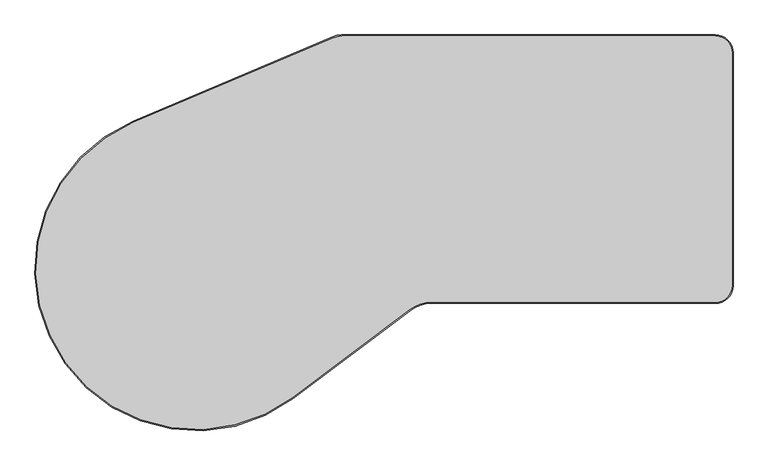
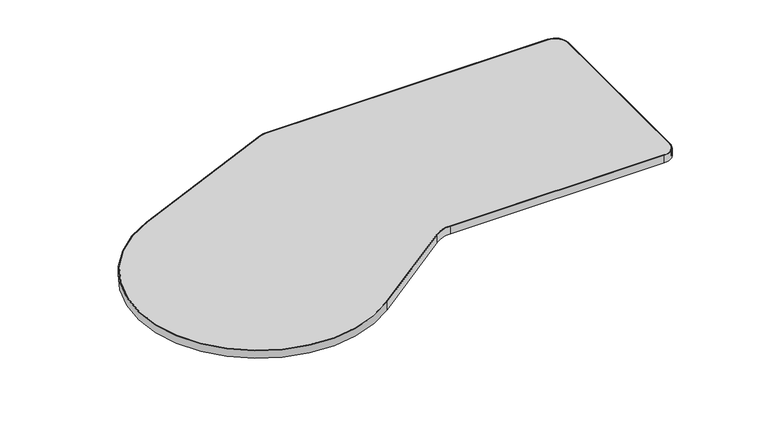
"""IFC4 building model written with IfcOpenShell, lengths in millimetres: furniture geometry, Steelcase - Answer Solution - Universal Table - Bubble Jetty - 3mm Edge : 30D x 78W - Left."""

from ifc_helpers import new_model, si_unit, point, frame, frame_2d, origin, place, context, project, spatial, polyline, circle_curve, trimmed, segment, composite_curve, outline, extrude, source, transform, mapped, element, save


def furniture_5bc7b9bf(model_context):
    return source(origin(), model_context, "Body", "SweptSolid", [
        extrude(outline(composite_curve([segment(polyline([(-1111.5127585, 0.0), (-50.8, 0.0)]), True, "CONTINUOUS"), segment(trimmed(circle_curve(frame_2d((-50.8, -50.8)), 50.8), [point((-50.8, 0.0))], [point((0.0, -50.8))], False, "CARTESIAN"), True, "CONTINUOUS"), segment(polyline([(0.0, -50.8), (0.0, -711.2)]), True, "CONTINUOUS"), segment(trimmed(circle_curve(frame_2d((-50.8, -711.2)), 50.8), [point((0.0, -711.2))], [point((-50.8, -762.0))], False, "CARTESIAN"), True, "CONTINUOUS"), segment(polyline([(-50.8, -762.0), (-855.727677, -762.0)]), True, "CONTINUOUS"), segment(trimmed(circle_curve(frame_2d((-855.727677, -863.6)), 101.6), [point((-855.727677, -762.0))], [point((-916.6860196, -782.318757))], True, "CARTESIAN"), True, "CONTINUOUS"), segment(polyline([(-916.6860196, -782.318757), (-1249.6888367, -1032.06026)]), True, "CONTINUOUS"), segment(trimmed(circle_curve(frame_2d((-1524.0017654, -666.2941502)), 457.2006452), [point((-1249.6888367, -1032.06026))], [point((-1702.645658, -245.4393183))], False, "CARTESIAN"), True, "CONTINUOUS"), segment(polyline([(-1702.645658, -245.4393183), (-1136.3243752, -5.0480225)]), True, "CONTINUOUS"), segment(trimmed(circle_curve(frame_2d((-1111.5127585, -63.5)), 63.5), [point((-1136.3243752, -5.0480225))], [point((-1111.5127585, 0.0))], False, "CARTESIAN"), True, "CONTINUOUS")], self_intersect=False), holes=[composite_curve([segment(polyline([(-855.7262558, -758.9513489), (-50.7998062, -758.9513489)]), True, "CONTINUOUS"), segment(trimmed(circle_curve(frame_2d((-50.7998062, -711.1996124)), 47.7517365), [point((-50.7998062, -758.9513489))], [point((-3.0480698, -711.1996124))], True, "CARTESIAN"), True, "CONTINUOUS"), segment(polyline([(-3.0480698, -711.1996124), (-3.0480698, -50.7992248)]), True, "CONTINUOUS"), segment(trimmed(circle_curve(frame_2d((-50.7998062, -50.7992248)), 47.7517365), [point((-3.0480698, -50.7992248))], [point((-50.7998062, -3.0474883))], True, "CARTESIAN"), True, "CONTINUOUS"), segment(polyline([(-50.7998062, -3.0474883), (-1108.9325722, -3.0474883)]), True, "CONTINUOUS"), segment(trimmed(circle_curve(frame_2d((-1108.9325722, -76.1911818)), 73.1436934), [point((-1108.9325722, -3.0474883))], [point((-1137.5125443, -8.8622498))], True, "CARTESIAN"), True, "CONTINUOUS"), segment(polyline([(-1137.5125443, -8.8622498), (-1701.4531219, -248.2453125)]), True, "CONTINUOUS"), segment(trimmed(circle_curve(frame_2d((-1523.9992122, -666.292685)), 454.1514018), [point((-1701.4531219, -248.2453125))], [point((-1251.517708, -1029.6208089))], True, "CARTESIAN"), True, "CONTINUOUS"), segment(polyline([(-1251.517708, -1029.6208089), (-918.5099232, -779.8783417)]), True, "CONTINUOUS"), segment(trimmed(circle_curve(frame_2d((-855.7262558, -863.5943802)), 104.6430313), [point((-918.5099232, -779.8783417))], [point((-855.7262558, -758.9513489))], False, "CARTESIAN"), True, "CONTINUOUS")], self_intersect=False)]), frame((0.0, 0.0, 668.274), z_axis=(0.0, 0.0, 1.0), x_axis=(1.0, 0.0, 0.0)), (0.0, 0.0, 1.0), 30.0990349),
        extrude(outline(composite_curve([segment(trimmed(circle_curve(frame_2d((-855.7262558, -863.5943802)), 104.6430313), [point((-855.7262558, -758.9513489))], [point((-918.5099232, -779.8783417))], True, "CARTESIAN"), True, "CONTINUOUS"), segment(polyline([(-918.5099232, -779.8783417), (-1251.517708, -1029.620809)]), True, "CONTINUOUS"), segment(trimmed(circle_curve(frame_2d((-1523.9992122, -666.292685)), 454.1514018), [point((-1251.517708, -1029.620809))], [point((-1701.4531219, -248.2453125))], False, "CARTESIAN"), True, "CONTINUOUS"), segment(polyline([(-1701.4531219, -248.2453125), (-1137.5125443, -8.8622498)]), True, "CONTINUOUS"), segment(trimmed(circle_curve(frame_2d((-1108.9325722, -76.1911818)), 73.1436934), [point((-1137.5125443, -8.8622498))], [point((-1108.9325722, -3.0474883))], False, "CARTESIAN"), True, "CONTINUOUS"), segment(polyline([(-1108.9325722, -3.0474883), (-50.7998062, -3.0474884)]), True, "CONTINUOUS"), segment(trimmed(circle_curve(frame_2d((-50.7998062, -50.7992249)), 47.7517365), [point((-50.7998062, -3.0474884))], [point((-3.0480698, -50.7992249))], False, "CARTESIAN"), True, "CONTINUOUS"), segment(polyline([(-3.0480698, -50.7992249), (-3.0480698, -711.1996124)]), True, "CONTINUOUS"), segment(trimmed(circle_curve(frame_2d((-50.7998062, -711.1996124)), 47.7517365), [point((-3.0480698, -711.1996124))], [point((-50.7998062, -758.9513489))], False, "CARTESIAN"), True, "CONTINUOUS"), segment(polyline([(-50.7998062, -758.9513489), (-855.7262558, -758.9513489)]), True, "CONTINUOUS")], self_intersect=False)), frame((0.0, 0.0, 668.274), z_axis=(0.0, 0.0, 1.0), x_axis=(1.0, 0.0, 0.0)), (0.0, 0.0, 1.0), 30.0990349),
    ])


if __name__ == "__main__":
    model = new_model("IFC4")
    model_context = context("Model", 3, world=origin())
    ifc_project = project(units=[si_unit("LENGTHUNIT", "METRE", prefix="MILLI")], contexts=[model_context])
    site = spatial("IfcSite", under=ifc_project)
    building = spatial("IfcBuilding", under=site)
    placement = place(None, origin())
    furniture_shape = furniture_5bc7b9bf(model_context)
    element("IfcFurniture", 1, ObjectType="Steelcase - Answer Solution - Universal Table - Bubble Jetty - 3mm Edge : 30D x 78W - Left", at=placement, inside=building, context=model_context, shape_type="MappedRepresentation", body=[
        mapped(furniture_shape, transform((0.0, 0.0, 0.0), x_axis=(1.0, 0.0, 0.0), y_axis=(0.0, 1.0, 0.0), z_axis=(0.0, 0.0, 1.0))),
    ])
    save(model, "model.ifc")
